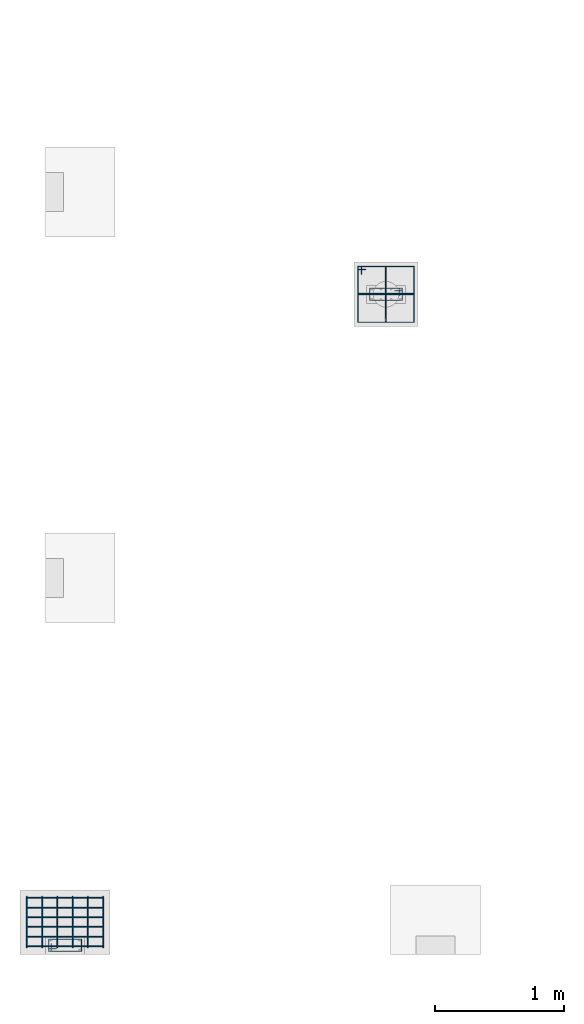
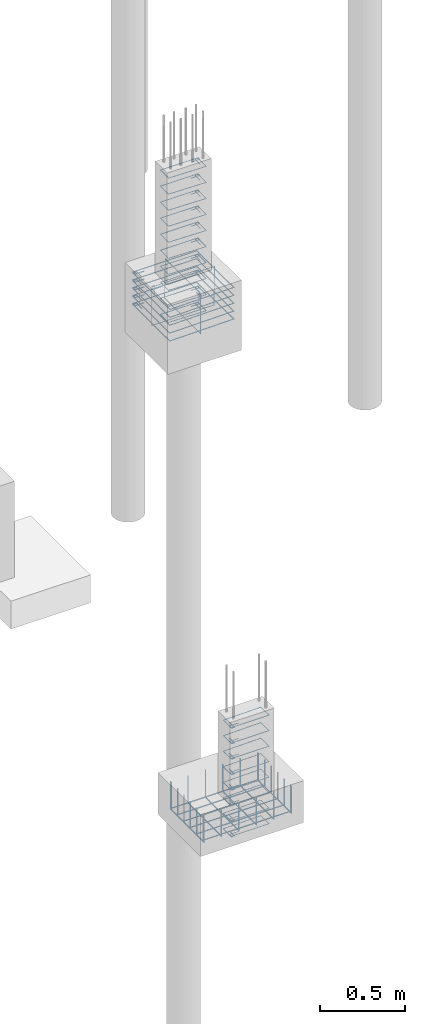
# One storey, part 68 of 119: 37 reinforcing bars.
"""IFC4 building model written with IfcOpenShell, lengths in centimetres."""

from ifc_helpers import new_model, entity, si_unit, derived_unit, frame, origin_with_axes, place, context, project, spatial, source, transform, mapped, element, save


model = new_model("IFC4")

# Units and contexts
model_context = context("Model", 3, precision=1e-05, world=origin_with_axes(), identifier="Body")
ifc_project = project(units=[si_unit("LENGTHUNIT", "METRE", prefix="CENTI"), si_unit("VOLUMEUNIT", "CUBIC_METRE"), si_unit("AREAUNIT", "SQUARE_METRE"), si_unit("POWERUNIT", "WATT"), si_unit("LUMINOUSFLUXUNIT", "LUMEN"), si_unit("ELECTRICCURRENTUNIT", "AMPERE"), si_unit("PRESSUREUNIT", "PASCAL", prefix="KILO"), si_unit("MASSUNIT", "GRAM", prefix="KILO"), si_unit("PLANEANGLEUNIT", "RADIAN"), derived_unit("VOLUMETRICFLOWRATEUNIT", [(si_unit("LENGTHUNIT", "METRE"), 3), (si_unit("TIMEUNIT", "SECOND"), -1)])], contexts=[model_context])

# Site, building, storey
site_placement = place(None, frame((-4000.0, 0.0, 0.0), z_axis=(0.0, 0.0, 1.0), x_axis=(1.0, 0.0, 0.0)))
site = spatial("IfcSite", under=ifc_project, at=site_placement, Name="PADRÃO")
building_placement = place(site_placement, frame((0.0, 0.0, -14.0)))
building = spatial("IfcBuilding", under=site, at=building_placement, Name="CRECHE PRÉ-ESCOLA TIPO 2")
storey_placement = place(building_placement, origin_with_axes())
storey = spatial("IfcBuildingStorey", under=building, at=storey_placement, Name="FUNDAÇÃO", CompositionType="ELEMENT", Elevation=-14.0)

# Reinforcing bars
shared_shape_1 = source(origin_with_axes(), model_context, "Body", "AdvancedSweptSolid", [
    entity("IfcSweptDiskSolid", entity("IfcCompositeCurve", [entity("IfcCompositeCurveSegment", "CONTINUOUS", True, entity("IfcPolyline", [entity("IfcCartesianPoint", [4.25, 21.75, 0.0]), entity("IfcCartesianPoint", [4.25, 27.75, 0.0])])), entity("IfcCompositeCurveSegment", "CONTINUOUS", True, entity("IfcPolyline", [entity("IfcCartesianPoint", [4.25, 27.75, 0.0]), entity("IfcCartesianPoint", [2.25, 27.75, 0.0])])), entity("IfcCompositeCurveSegment", "CONTINUOUS", True, entity("IfcPolyline", [entity("IfcCartesianPoint", [2.25, 27.75, 0.0]), entity("IfcCartesianPoint", [2.25, 2.25, 0.0])])), entity("IfcCompositeCurveSegment", "CONTINUOUS", True, entity("IfcPolyline", [entity("IfcCartesianPoint", [2.25, 2.25, 0.0]), entity("IfcCartesianPoint", [11.75, 2.25, 0.0])])), entity("IfcCompositeCurveSegment", "CONTINUOUS", True, entity("IfcPolyline", [entity("IfcCartesianPoint", [11.75, 2.25, 0.0]), entity("IfcCartesianPoint", [11.75, 27.75, -0.5])])), entity("IfcCompositeCurveSegment", "CONTINUOUS", True, entity("IfcPolyline", [entity("IfcCartesianPoint", [11.75, 27.75, -0.5]), entity("IfcCartesianPoint", [2.25, 27.75, -0.5])])), entity("IfcCompositeCurveSegment", "CONTINUOUS", True, entity("IfcPolyline", [entity("IfcCartesianPoint", [2.25, 27.75, -0.5]), entity("IfcCartesianPoint", [2.25, 25.75, -0.5])])), entity("IfcCompositeCurveSegment", "CONTINUOUS", True, entity("IfcPolyline", [entity("IfcCartesianPoint", [2.25, 25.75, -0.5]), entity("IfcCartesianPoint", [8.25, 25.75, -0.5])]))], False), 0.25),
])
for number, where, z_axis, x_axis, name in (
    (1, (251.0, 522.0, -97.75), (0.0, 0.0, 1.0), (0.0, -1.0, 0.0), "P135 - Estribo"),
    (2, (251.0, 522.0, -86.25), (0.0, 0.0, 1.0), (0.0, -1.0, 0.0), "P135 - Estribo"),
    (3, (251.0, 522.0, -74.75), (0.0, 0.0, 1.0), (0.0, -1.0, 0.0), "P135 - Estribo"),
    (4, (251.0, 522.0, -63.25), (0.0, 0.0, 1.0), (0.0, -1.0, 0.0), "P135 - Estribo"),
    (5, (251.0, 522.0, -51.75), (0.0, 0.0, 1.0), (0.0, -1.0, 0.0), "P135 - Estribo"),
    (6, (251.0, 522.0, -40.25), (0.0, 0.0, 1.0), (0.0, -1.0, 0.0), "P135 - Estribo"),
    (7, (251.0, 522.0, -5.75), (0.0, 0.0, 1.0), (0.0, -1.0, 0.0), "P135 - Estribo"),
    (8, (251.0, 522.0, -17.25), (0.0, 0.0, 1.0), (0.0, -1.0, 0.0), "P135 - Estribo"),
    (9, (251.0, 522.0, -109.25), (0.0, 0.0, 1.0), (0.0, -1.0, 0.0), "P135 - Estribo"),
    (10, (251.0, 522.0, -28.75), (0.0, 0.0, 1.0), (0.0, -1.0, 0.0), "P135 - Estribo"),
):
    element("IfcReinforcingBar", number, at=place(storey_placement, frame(where, z_axis=z_axis, x_axis=x_axis)), inside=storey, Name=name, BarLength=0.0, CrossSectionArea=1.9634954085e-05, NominalDiameter=0.5, PredefinedType="MAIN", context=model_context, shape_type="MappedRepresentation", body=[
        mapped(shared_shape_1, transform((0.0, 0.0, 0.0), scale=1.0)),
    ])
shared_shape_2 = source(origin_with_axes(), model_context, "Body", "AdvancedSweptSolid", [
    entity("IfcSweptDiskSolid", entity("IfcCompositeCurve", [entity("IfcCompositeCurveSegment", "CONTINUOUS", True, entity("IfcPolyline", [entity("IfcCartesianPoint", [246.835, 530.425, 0.0]), entity("IfcCartesianPoint", [246.835, 536.685, 0.0])])), entity("IfcCompositeCurveSegment", "CONTINUOUS", True, entity("IfcPolyline", [entity("IfcCartesianPoint", [246.835, 536.685, 0.0]), entity("IfcCartesianPoint", [244.315, 536.685, 0.0])])), entity("IfcCompositeCurveSegment", "CONTINUOUS", True, entity("IfcPolyline", [entity("IfcCartesianPoint", [244.315, 536.685, 0.0]), entity("IfcCartesianPoint", [244.315, 493.315, 0.0])])), entity("IfcCompositeCurveSegment", "CONTINUOUS", True, entity("IfcPolyline", [entity("IfcCartesianPoint", [244.315, 493.315, 0.0]), entity("IfcCartesianPoint", [287.685, 493.315, 0.63])])), entity("IfcCompositeCurveSegment", "CONTINUOUS", True, entity("IfcPolyline", [entity("IfcCartesianPoint", [287.685, 493.315, 0.63]), entity("IfcCartesianPoint", [287.685, 536.685, 0.63])])), entity("IfcCompositeCurveSegment", "CONTINUOUS", True, entity("IfcPolyline", [entity("IfcCartesianPoint", [287.685, 536.685, 0.63]), entity("IfcCartesianPoint", [244.315, 536.685, 0.63])])), entity("IfcCompositeCurveSegment", "CONTINUOUS", True, entity("IfcPolyline", [entity("IfcCartesianPoint", [244.315, 536.685, 0.63]), entity("IfcCartesianPoint", [244.315, 534.165, 0.63])])), entity("IfcCompositeCurveSegment", "CONTINUOUS", True, entity("IfcPolyline", [entity("IfcCartesianPoint", [244.315, 534.165, 0.63]), entity("IfcCartesianPoint", [250.575, 534.165, 0.63])]))], False), 0.315),
])
for number, where, z_axis, x_axis, name in (
    (11, (0.0, 0.0, -109.175), (0.0, 0.0, 1.0), (1.0, 0.0, 0.0), "P135 - Blocos (estribos)"),
    (12, (0.0, 0.0, -86.575), (0.0, 0.0, 1.0), (1.0, 0.0, 0.0), "P135 - Blocos (estribos)"),
    (13, (0.0, 0.0, -92.225), (0.0, 0.0, 1.0), (1.0, 0.0, 0.0), "P135 - Blocos (estribos)"),
    (14, (0.0, 0.0, -97.875), (0.0, 0.0, 1.0), (1.0, 0.0, 0.0), "P135 - Blocos (estribos)"),
    (15, (0.0, 0.0, -103.525), (0.0, 0.0, 1.0), (1.0, 0.0, 0.0), "P135 - Blocos (estribos)"),
):
    element("IfcReinforcingBar", number, at=place(storey_placement, frame(where, z_axis=z_axis, x_axis=x_axis)), inside=storey, Name=name, BarLength=0.0, CrossSectionArea=3.1172453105e-05, NominalDiameter=0.63, PredefinedType="MAIN", context=model_context, shape_type="MappedRepresentation", body=[
        mapped(shared_shape_2, transform((0.0, 0.0, 0.0), scale=1.0)),
    ])
shared_shape_3 = source(origin_with_axes(), model_context, "Body", "AdvancedSweptSolid", [
    entity("IfcSweptDiskSolid", entity("IfcCompositeCurve", [entity("IfcCompositeCurveSegment", "CONTINUOUS", True, entity("IfcPolyline", [entity("IfcCartesianPoint", [-15.12, -12.0, 0.0]), entity("IfcCartesianPoint", [-21.12, -12.0, 0.0])])), entity("IfcCompositeCurveSegment", "CONTINUOUS", True, entity("IfcPolyline", [entity("IfcCartesianPoint", [-21.12, -12.0, 0.0]), entity("IfcCartesianPoint", [-21.12, -14.0, 0.0])])), entity("IfcCompositeCurveSegment", "CONTINUOUS", True, entity("IfcPolyline", [entity("IfcCartesianPoint", [-21.12, -14.0, 0.0]), entity("IfcCartesianPoint", [21.12, -14.0, 0.0])])), entity("IfcCompositeCurveSegment", "CONTINUOUS", True, entity("IfcPolyline", [entity("IfcCartesianPoint", [21.12, -14.0, 0.0]), entity("IfcCartesianPoint", [21.12, 14.0, 0.5])])), entity("IfcCompositeCurveSegment", "CONTINUOUS", True, entity("IfcPolyline", [entity("IfcCartesianPoint", [21.12, 14.0, 0.5]), entity("IfcCartesianPoint", [-21.12, 14.0, 0.5])])), entity("IfcCompositeCurveSegment", "CONTINUOUS", True, entity("IfcPolyline", [entity("IfcCartesianPoint", [-21.12, 14.0, 0.5]), entity("IfcCartesianPoint", [-21.12, -14.0, 0.5])])), entity("IfcCompositeCurveSegment", "CONTINUOUS", True, entity("IfcPolyline", [entity("IfcCartesianPoint", [-21.12, -14.0, 0.5]), entity("IfcCartesianPoint", [-19.12, -14.0, 0.5])])), entity("IfcCompositeCurveSegment", "CONTINUOUS", True, entity("IfcPolyline", [entity("IfcCartesianPoint", [-19.12, -14.0, 0.5]), entity("IfcCartesianPoint", [-19.12, -8.0, 0.5])]))], False), 0.25),
])
reinforcing_bar_1_placement = place(storey_placement, frame((266.0, 515.0, -97.75), z_axis=(0.0, 1.0, 0.0), x_axis=(1.0, 0.0, 0.0)))
element("IfcReinforcingBar", 16, at=reinforcing_bar_1_placement, inside=storey, Name="P135 - Blocos (estribos)", BarLength=0.0, CrossSectionArea=1.9634954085e-05, NominalDiameter=0.5, PredefinedType="MAIN", context=model_context, shape_type="MappedRepresentation", body=[
    mapped(shared_shape_3, transform((0.0, 0.0, 0.0), scale=1.0)),
])
shared_shape_4 = source(origin_with_axes(), model_context, "Body", "AdvancedSweptSolid", [
    entity("IfcSweptDiskSolid", entity("IfcCompositeCurve", [entity("IfcCompositeCurveSegment", "CONTINUOUS", True, entity("IfcPolyline", [entity("IfcCartesianPoint", [-15.12, -12.0, 0.0]), entity("IfcCartesianPoint", [-21.12, -12.0, 0.0])])), entity("IfcCompositeCurveSegment", "CONTINUOUS", True, entity("IfcPolyline", [entity("IfcCartesianPoint", [-21.12, -12.0, 0.0]), entity("IfcCartesianPoint", [-21.12, -14.0, 0.0])])), entity("IfcCompositeCurveSegment", "CONTINUOUS", True, entity("IfcPolyline", [entity("IfcCartesianPoint", [-21.12, -14.0, 0.0]), entity("IfcCartesianPoint", [21.12, -14.0, 0.0])])), entity("IfcCompositeCurveSegment", "CONTINUOUS", True, entity("IfcPolyline", [entity("IfcCartesianPoint", [21.12, -14.0, 0.0]), entity("IfcCartesianPoint", [21.12, 14.0, 0.5])])), entity("IfcCompositeCurveSegment", "CONTINUOUS", True, entity("IfcPolyline", [entity("IfcCartesianPoint", [21.12, 14.0, 0.5]), entity("IfcCartesianPoint", [-21.12, 14.0, 0.5])])), entity("IfcCompositeCurveSegment", "CONTINUOUS", True, entity("IfcPolyline", [entity("IfcCartesianPoint", [-21.12, 14.0, 0.5]), entity("IfcCartesianPoint", [-21.12, -14.0, 0.5])])), entity("IfcCompositeCurveSegment", "CONTINUOUS", True, entity("IfcPolyline", [entity("IfcCartesianPoint", [-21.12, -14.0, 0.5]), entity("IfcCartesianPoint", [-19.12, -14.0, 0.5])])), entity("IfcCompositeCurveSegment", "CONTINUOUS", True, entity("IfcPolyline", [entity("IfcCartesianPoint", [-19.12, -14.0, 0.5]), entity("IfcCartesianPoint", [-19.12, -8.0, 0.5])]))], False), 0.25),
])
reinforcing_bar_2_placement = place(storey_placement, frame((266.0, 515.0, -97.75), z_axis=(-1.0, 0.0, 0.0), x_axis=(0.0, 1.0, 0.0)))
element("IfcReinforcingBar", 17, at=reinforcing_bar_2_placement, inside=storey, Name="P135 - Blocos (estribos)", BarLength=0.0, CrossSectionArea=1.9634954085e-05, NominalDiameter=0.5, PredefinedType="MAIN", context=model_context, shape_type="MappedRepresentation", body=[
    mapped(shared_shape_4, transform((0.0, 0.0, 0.0), scale=1.0)),
])
shared_shape_5 = source(origin_with_axes(), model_context, "Body", "AdvancedSweptSolid", [
    entity("IfcSweptDiskSolid", entity("IfcCompositeCurve", [entity("IfcCompositeCurveSegment", "CONTINUOUS", True, entity("IfcPolyline", [entity("IfcCartesianPoint", [4.25, 21.75, 0.0]), entity("IfcCartesianPoint", [4.25, 27.75, 0.0])])), entity("IfcCompositeCurveSegment", "CONTINUOUS", True, entity("IfcPolyline", [entity("IfcCartesianPoint", [4.25, 27.75, 0.0]), entity("IfcCartesianPoint", [2.25, 27.75, 0.0])])), entity("IfcCompositeCurveSegment", "CONTINUOUS", True, entity("IfcPolyline", [entity("IfcCartesianPoint", [2.25, 27.75, 0.0]), entity("IfcCartesianPoint", [2.25, 2.25, 0.0])])), entity("IfcCompositeCurveSegment", "CONTINUOUS", True, entity("IfcPolyline", [entity("IfcCartesianPoint", [2.25, 2.25, 0.0]), entity("IfcCartesianPoint", [11.75, 2.25, 0.0])])), entity("IfcCompositeCurveSegment", "CONTINUOUS", True, entity("IfcPolyline", [entity("IfcCartesianPoint", [11.75, 2.25, 0.0]), entity("IfcCartesianPoint", [11.75, 27.75, -0.5])])), entity("IfcCompositeCurveSegment", "CONTINUOUS", True, entity("IfcPolyline", [entity("IfcCartesianPoint", [11.75, 27.75, -0.5]), entity("IfcCartesianPoint", [2.25, 27.75, -0.5])])), entity("IfcCompositeCurveSegment", "CONTINUOUS", True, entity("IfcPolyline", [entity("IfcCartesianPoint", [2.25, 27.75, -0.5]), entity("IfcCartesianPoint", [2.25, 25.75, -0.5])])), entity("IfcCompositeCurveSegment", "CONTINUOUS", True, entity("IfcPolyline", [entity("IfcCartesianPoint", [2.25, 25.75, -0.5]), entity("IfcCartesianPoint", [8.25, 25.75, -0.5])]))], False), 0.25),
])
for number, where, z_axis, x_axis, name in (
    (18, (31.5, 2.0, -83.4375), (0.0, 0.0, 1.0), (0.0, 1.0, 0.0), "P155 - Estribo"),
    (19, (31.5, 2.0, -5.5625), (0.0, 0.0, 1.0), (0.0, 1.0, 0.0), "P155 - Estribo"),
    (20, (31.5, 2.0, -38.9375), (0.0, 0.0, 1.0), (0.0, 1.0, 0.0), "P155 - Estribo"),
    (21, (31.5, 2.0, -16.6875), (0.0, 0.0, 1.0), (0.0, 1.0, 0.0), "P155 - Estribo"),
    (22, (31.5, 2.0, -61.1875), (0.0, 0.0, 1.0), (0.0, 1.0, 0.0), "P155 - Estribo"),
    (23, (31.5, 2.0, -27.8125), (0.0, 0.0, 1.0), (0.0, 1.0, 0.0), "P155 - Estribo"),
    (24, (31.5, 2.0, -50.0625), (0.0, 0.0, 1.0), (0.0, 1.0, 0.0), "P155 - Estribo"),
    (25, (31.5, 2.0, -72.3125), (0.0, 0.0, 1.0), (0.0, 1.0, 0.0), "P155 - Estribo"),
):
    element("IfcReinforcingBar", number, at=place(storey_placement, frame(where, z_axis=z_axis, x_axis=x_axis)), inside=storey, Name=name, BarLength=0.0, CrossSectionArea=1.9634954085e-05, NominalDiameter=0.5, PredefinedType="MAIN", context=model_context, shape_type="MappedRepresentation", body=[
        mapped(shared_shape_5, transform((0.0, 0.0, 0.0), scale=1.0)),
    ])
shared_shape_6 = source(origin_with_axes(), model_context, "Body", "AdvancedSweptSolid", [
    entity("IfcSweptDiskSolid", entity("IfcCompositeCurve", [entity("IfcCompositeCurveSegment", "CONTINUOUS", True, entity("IfcPolyline", [entity("IfcCartesianPoint", [0.0, 0.0, 19.6]), entity("IfcCartesianPoint", [0.0, 0.0, 0.0])])), entity("IfcCompositeCurveSegment", "CONTINUOUS", True, entity("IfcPolyline", [entity("IfcCartesianPoint", [0.0, 0.0, 0.0]), entity("IfcCartesianPoint", [39.2, 0.0, 0.0])])), entity("IfcCompositeCurveSegment", "CONTINUOUS", True, entity("IfcPolyline", [entity("IfcCartesianPoint", [39.2, 0.0, 0.0]), entity("IfcCartesianPoint", [39.2, 0.0, 19.6])]))], False), 0.4),
])
for number, where, z_axis, x_axis, name in (
    (26, (22.42, 7.4, -83.6), (0.0, 0.0, 1.0), (0.0, 1.0, 0.0), "P155 - Sapatas (inferior)"),
    (27, (34.26, 7.4, -83.6), (0.0, 0.0, 1.0), (0.0, 1.0, 0.0), "P155 - Sapatas (inferior)"),
    (28, (46.1, 7.4, -83.6), (0.0, 0.0, 1.0), (0.0, 1.0, 0.0), "P155 - Sapatas (inferior)"),
    (29, (-1.26, 7.4, -83.6), (0.0, 0.0, 1.0), (0.0, 1.0, 0.0), "P155 - Sapatas (inferior)"),
    (30, (10.58, 7.4, -83.6), (0.0, 0.0, 1.0), (0.0, 1.0, 0.0), "P155 - Sapatas (inferior)"),
    (31, (-13.1, 7.4, -83.6), (0.0, 0.0, 1.0), (0.0, 1.0, 0.0), "P155 - Sapatas (inferior)"),
):
    element("IfcReinforcingBar", number, at=place(storey_placement, frame(where, z_axis=z_axis, x_axis=x_axis)), inside=storey, Name=name, BarLength=0.0, CrossSectionArea=5.0265482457e-05, NominalDiameter=0.8, PredefinedType="MAIN", context=model_context, shape_type="MappedRepresentation", body=[
        mapped(shared_shape_6, transform((0.0, 0.0, 0.0), scale=1.0)),
    ])
shared_shape_7 = source(origin_with_axes(), model_context, "Body", "AdvancedSweptSolid", [
    entity("IfcSweptDiskSolid", entity("IfcCompositeCurve", [entity("IfcCompositeCurveSegment", "CONTINUOUS", True, entity("IfcPolyline", [entity("IfcCartesianPoint", [0.0, 0.0, 18.8]), entity("IfcCartesianPoint", [0.0, 0.0, 0.0])])), entity("IfcCompositeCurveSegment", "CONTINUOUS", True, entity("IfcPolyline", [entity("IfcCartesianPoint", [0.0, 0.0, 0.0]), entity("IfcCartesianPoint", [0.0, 59.2, 0.0])])), entity("IfcCompositeCurveSegment", "CONTINUOUS", True, entity("IfcPolyline", [entity("IfcCartesianPoint", [0.0, 59.2, 0.0]), entity("IfcCartesianPoint", [0.0, 59.2, 18.8])]))], False), 0.4),
])
for number, where, z_axis, x_axis, name in (
    (32, (46.1, 30.76, -82.8), (0.0, 0.0, 1.0), (0.0, 1.0, 0.0), "P155 - Sapatas (inferior)"),
    (33, (46.1, 45.8, -82.8), (0.0, 0.0, 1.0), (0.0, 1.0, 0.0), "P155 - Sapatas (inferior)"),
    (34, (46.1, 38.28, -82.8), (0.0, 0.0, 1.0), (0.0, 1.0, 0.0), "P155 - Sapatas (inferior)"),
    (35, (46.1, 8.2, -82.8), (0.0, 0.0, 1.0), (0.0, 1.0, 0.0), "P155 - Sapatas (inferior)"),
    (36, (46.1, 15.72, -82.8), (0.0, 0.0, 1.0), (0.0, 1.0, 0.0), "P155 - Sapatas (inferior)"),
    (37, (46.1, 23.24, -82.8), (0.0, 0.0, 1.0), (0.0, 1.0, 0.0), "P155 - Sapatas (inferior)"),
):
    element("IfcReinforcingBar", number, at=place(storey_placement, frame(where, z_axis=z_axis, x_axis=x_axis)), inside=storey, Name=name, BarLength=0.0, CrossSectionArea=5.0265482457e-05, NominalDiameter=0.8, PredefinedType="MAIN", context=model_context, shape_type="MappedRepresentation", body=[
        mapped(shared_shape_7, transform((0.0, 0.0, 0.0), scale=1.0)),
    ])

save(model, "model.ifc")
